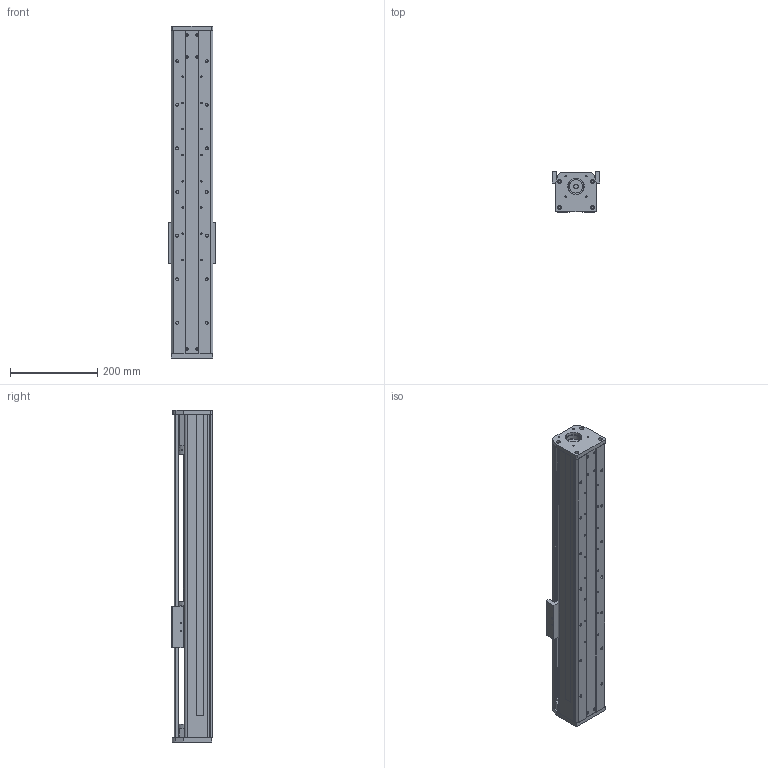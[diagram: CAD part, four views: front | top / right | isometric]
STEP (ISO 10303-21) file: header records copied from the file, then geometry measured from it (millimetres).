
FILE_DESCRIPTION (( 'STEP AP203' ), '1' );
FILE_NAME ('CF95-2-P500.STEP', '2016-02-22T07:30:57', ( 'Sky123.Org' ), ( 'Sky123.Org' ), 'SwSTEP 2.0', 'SolidWorks 2015', '' );
FILE_SCHEMA (( 'CONFIG_CONTROL_DESIGN' ));
Length unit declared in the file: millimetre
Products named in the file (19): circlips for shaft--type a large gb_GB_CONNECTING_PIECE_RING_RRA 12; 30-42薊粣ん; 95粣創裔啣; CF95-2-P500; 95盓厥傷; SFS1610-520; 坶踡蹟譫M12-1; 95裔啣-1; 95-2邧寢賑輸; HGR15絳寢; SFU1604-3; hGH15CA賑輸; 95滅袉蝶菜; CF95-57萇儂假蚾啣; 95-2耜啣; CF95固定座（配30-42联轴器）; deep groove ball bearings gb_Rolling bearings 6001 GB 276-94; angular contact ball bearings gb_Rolling bearings S7001 GB 292-94; CF95-2臏倰第
Assembly tree (22 placements, depth 2):
  CF95-2-P500
    CF95-2臏倰第
    95粣創裔啣
    SFS1610-520
    95裔啣-1
    HGR15絳寢  x2
    hGH15CA賑輸  x2
    CF95-57萇儂假蚾啣
    CF95固定座（配30-42联轴器）
    angular contact ball bearings gb_Rolling bearings S7001 GB 292-94  x2
    30-42薊粣ん
    95盓厥傷
    坶踡蹟譫M12-1
    95-2邧寢賑輸
    SFU1604-3
    95滅袉蝶菜  x2
    95-2耜啣
    deep groove ball bearings gb_Rolling bearings 6001 GB 276-94
    circlips for shaft--type a large gb_GB_CONNECTING_PIECE_RING_RRA 12
Bounding box: 110 x 92.5 x 761 mm (x, y, z)
Volume: 2657659.3 mm3; surface area: 837804.6 mm2
Topology: 22 solids, 22 shells, 1351 faces, 4282 edges, 2850 vertices
Faces by surface type: cylinder 571, plane 526, torus 159, sphere 84, cone 10, bspline 1
Entity records: 43592 total; most frequent: CARTESIAN_POINT 11534, ORIENTED_EDGE 6410, DIRECTION 6292, EDGE_CURVE 3205, AXIS2_PLACEMENT_3D 2481, VERTEX_POINT 2127, EDGE_LOOP 1372, CIRCLE 1357
